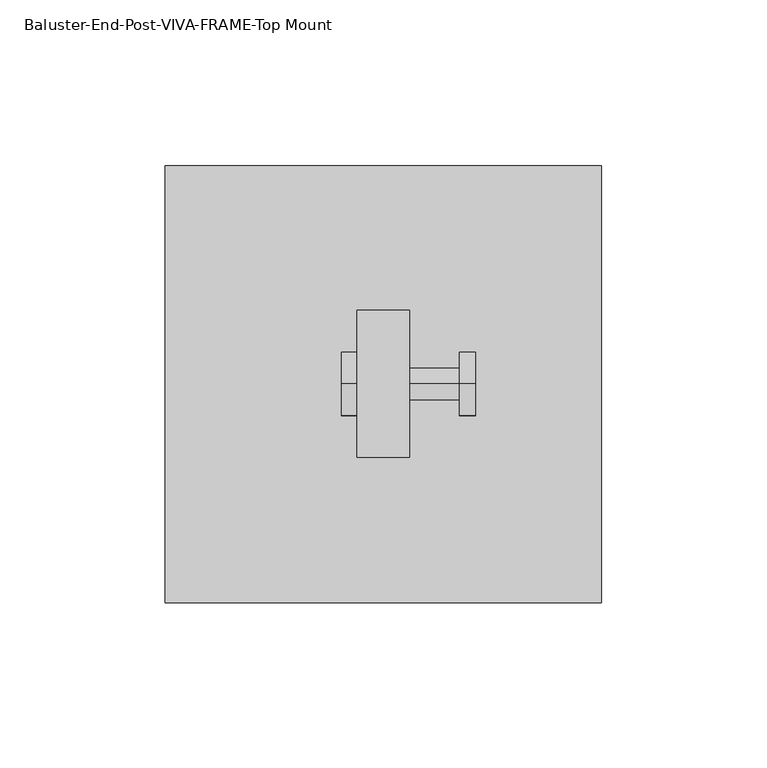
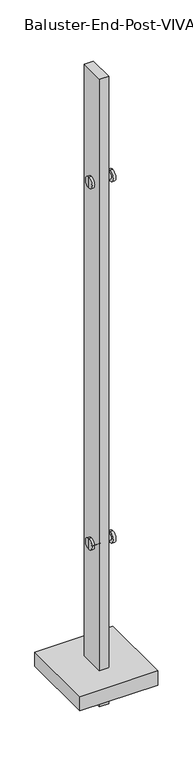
"""IFC4 building model written with IfcOpenShell, lengths in millimetres: proxy geometry, Baluster-End-Post-VIVA-FRAME-Top Mount : ANCHORED TO CONCRETE_TOP MOUNT FOLD_STRAIGHT."""

from ifc_helpers import new_model, si_unit, frame, origin, place, context, project, spatial, polyline, circle_curve, outline, extrude, source, transform, mapped, element, save
from ifc_brep_helpers import plane_surface, cylinder_surface, advanced_brep


def baluster_end_post_viva_frame_top_mount_259ace8d(model_context):
    return source(origin(), model_context, "Body", "SolidModel", [
        extrude(outline(polyline([(7.9375, -78.2802567), (7.9375, -122.7302567), (-7.9375, -122.7302567), (-7.9375, -78.2802567), (7.9375, -78.2802567)])), frame((0.0, 0.0, -39.2093072), z_axis=(0.0, 0.0, 1.0), x_axis=(1.0, 0.0, 0.0)), (0.0, 0.0, 1.0), 1125.3782846),
        advanced_brep(
        [(-12.7127, -100.5078, 231.7496), (-12.7127, -100.5078, 250.8504), (-12.7127, -100.5078, 241.3), (-7.9375, -100.5078, 231.7496), (-7.9375, -100.5078, 250.8504), (-7.9375, -100.5078, 236.5248), (-7.9375, -100.5078, 246.0752), (22.9997, -100.5078, 236.5248), (22.9997, -100.5078, 246.0752), (22.9997, -100.5078, 231.7496), (22.9997, -100.5078, 250.8504), (27.7749, -100.5078, 231.7496), (27.7749, -100.5078, 250.8504), (27.7749, -100.5078, 241.3)],
        [
            (0, 1, circle_curve(frame((-12.7127, -100.5078, 241.3), z_axis=(-1.0, 0.0, 0.0), x_axis=(0.0, 0.0, 1.0)), 9.5504)),
            (1, 2),
            (2, 0),
            (1, 0, circle_curve(frame((-12.7127, -100.5078, 241.3), z_axis=(-1.0, 0.0, 0.0), x_axis=(0.0, 0.0, 1.0)), 9.5504)),
            (3, 4, circle_curve(frame((-7.9375, -100.5078, 241.3), z_axis=(-1.0, 0.0, 0.0), x_axis=(0.0, 0.0, 1.0)), 9.5504)),
            (4, 1),
            (0, 3),
            (4, 3, circle_curve(frame((-7.9375, -100.5078, 241.3), z_axis=(-1.0, 0.0, 0.0), x_axis=(0.0, 0.0, 1.0)), 9.5504)),
            (5, 6, circle_curve(frame((-7.9375, -100.5078, 241.3), z_axis=(-1.0, 0.0, 0.0), x_axis=(0.0, 0.0, 1.0)), 4.7752)),
            (6, 4),
            (3, 5),
            (6, 5, circle_curve(frame((-7.9375, -100.5078, 241.3), z_axis=(-1.0, 0.0, 0.0), x_axis=(0.0, 0.0, 1.0)), 4.7752)),
            (7, 8, circle_curve(frame((22.9997, -100.5078, 241.3), z_axis=(-1.0, 0.0, 0.0), x_axis=(0.0, 0.0, 1.0)), 4.7752)),
            (8, 6),
            (5, 7),
            (8, 7, circle_curve(frame((22.9997, -100.5078, 241.3), z_axis=(-1.0, 0.0, 0.0), x_axis=(0.0, 0.0, 1.0)), 4.7752)),
            (9, 10, circle_curve(frame((22.9997, -100.5078, 241.3), z_axis=(-1.0, 0.0, 0.0), x_axis=(0.0, 0.0, 1.0)), 9.5504)),
            (10, 8),
            (7, 9),
            (10, 9, circle_curve(frame((22.9997, -100.5078, 241.3), z_axis=(-1.0, 0.0, 0.0), x_axis=(0.0, 0.0, 1.0)), 9.5504)),
            (11, 12, circle_curve(frame((27.7749, -100.5078, 241.3), z_axis=(-1.0, 0.0, 0.0), x_axis=(0.0, 0.0, 1.0)), 9.5504)),
            (12, 10),
            (9, 11),
            (12, 11, circle_curve(frame((27.7749, -100.5078, 241.3), z_axis=(-1.0, 0.0, 0.0), x_axis=(0.0, 0.0, 1.0)), 9.5504)),
            (13, 12),
            (11, 13),
        ],
        [
            plane_surface(frame((-12.7127, -100.5078, 241.3), z_axis=(-1.0, 0.0, 0.0), x_axis=(0.0, 0.0, 1.0))),
            cylinder_surface(frame((-3404.2930571, -100.5078, 241.3), z_axis=(1.0, 0.0, 0.0), x_axis=(0.0, 0.0, 1.0)), 9.5504),
            plane_surface(frame((-7.9375, -100.5078, 241.3), z_axis=(1.0, 0.0, 0.0), x_axis=(0.0, 0.0, 1.0))),
            cylinder_surface(frame((-3404.2930571, -100.5078, 241.3), z_axis=(1.0, 0.0, 0.0), x_axis=(0.0, 0.0, 1.0)), 4.7752),
            plane_surface(frame((22.9997, -100.5078, 241.3), z_axis=(-1.0, 0.0, 0.0), x_axis=(0.0, 0.0, 1.0))),
            plane_surface(frame((27.7749, -100.5078, 241.3), z_axis=(1.0, 0.0, 0.0), x_axis=(0.0, 0.0, 1.0))),
        ],
        [
            (0, [[1, 2, 3]]),
            (0, [[4, -3, -2]]),
            (1, [[5, 6, -1, 7]]),
            (1, [[8, -7, -4, -6]]),
            (2, [[9, 10, -5, 11]]),
            (2, [[12, -11, -8, -10]]),
            (3, [[13, 14, -9, 15]]),
            (3, [[16, -15, -12, -14]]),
            (4, [[17, 18, -13, 19]]),
            (4, [[20, -19, -16, -18]]),
            (1, [[21, 22, -17, 23]]),
            (1, [[24, -23, -20, -22]]),
            (5, [[25, -21, 26]]),
            (5, [[-26, -24, -25]]),
        ],
    ),
        advanced_brep(
        [(-12.7127, -100.5078, 879.4559555), (-12.7127, -100.5078, 898.5567555), (-12.7127, -100.5078, 889.0063555), (-7.9375, -100.5078, 879.4559555), (-7.9375, -100.5078, 898.5567555), (-7.9375, -100.5078, 884.2311555), (-7.9375, -100.5078, 893.7815555), (22.9997, -100.5078, 884.2311555), (22.9997, -100.5078, 893.7815555), (22.9997, -100.5078, 879.4559555), (22.9997, -100.5078, 898.5567555), (27.7749, -100.5078, 879.4559555), (27.7749, -100.5078, 898.5567555), (27.7749, -100.5078, 889.0063555)],
        [
            (0, 1, circle_curve(frame((-12.7127, -100.5078, 889.0063555), z_axis=(-1.0, 0.0, 0.0), x_axis=(0.0, 0.0, 1.0)), 9.5504)),
            (1, 2),
            (2, 0),
            (1, 0, circle_curve(frame((-12.7127, -100.5078, 889.0063555), z_axis=(-1.0, 0.0, 0.0), x_axis=(0.0, 0.0, 1.0)), 9.5504)),
            (3, 4, circle_curve(frame((-7.9375, -100.5078, 889.0063555), z_axis=(-1.0, 0.0, 0.0), x_axis=(0.0, 0.0, 1.0)), 9.5504)),
            (4, 1),
            (0, 3),
            (4, 3, circle_curve(frame((-7.9375, -100.5078, 889.0063555), z_axis=(-1.0, 0.0, 0.0), x_axis=(0.0, 0.0, 1.0)), 9.5504)),
            (5, 6, circle_curve(frame((-7.9375, -100.5078, 889.0063555), z_axis=(-1.0, 0.0, 0.0), x_axis=(0.0, 0.0, 1.0)), 4.7752)),
            (6, 4),
            (3, 5),
            (6, 5, circle_curve(frame((-7.9375, -100.5078, 889.0063555), z_axis=(-1.0, 0.0, 0.0), x_axis=(0.0, 0.0, 1.0)), 4.7752)),
            (7, 8, circle_curve(frame((22.9997, -100.5078, 889.0063555), z_axis=(-1.0, 0.0, 0.0), x_axis=(0.0, 0.0, 1.0)), 4.7752)),
            (8, 6),
            (5, 7),
            (8, 7, circle_curve(frame((22.9997, -100.5078, 889.0063555), z_axis=(-1.0, 0.0, 0.0), x_axis=(0.0, 0.0, 1.0)), 4.7752)),
            (9, 10, circle_curve(frame((22.9997, -100.5078, 889.0063555), z_axis=(-1.0, 0.0, 0.0), x_axis=(0.0, 0.0, 1.0)), 9.5504)),
            (10, 8),
            (7, 9),
            (10, 9, circle_curve(frame((22.9997, -100.5078, 889.0063555), z_axis=(-1.0, 0.0, 0.0), x_axis=(0.0, 0.0, 1.0)), 9.5504)),
            (11, 12, circle_curve(frame((27.7749, -100.5078, 889.0063555), z_axis=(-1.0, 0.0, 0.0), x_axis=(0.0, 0.0, 1.0)), 9.5504)),
            (12, 10),
            (9, 11),
            (12, 11, circle_curve(frame((27.7749, -100.5078, 889.0063555), z_axis=(-1.0, 0.0, 0.0), x_axis=(0.0, 0.0, 1.0)), 9.5504)),
            (13, 12),
            (11, 13),
        ],
        [
            plane_surface(frame((-12.7127, -100.5078, 889.0063555), z_axis=(-1.0, 0.0, 0.0), x_axis=(0.0, 0.0, 1.0))),
            cylinder_surface(frame((-3404.2930571, -100.5078, 889.0063555), z_axis=(1.0, 0.0, 0.0), x_axis=(0.0, 0.0, 1.0)), 9.5504),
            plane_surface(frame((-7.9375, -100.5078, 889.0063555), z_axis=(1.0, 0.0, 0.0), x_axis=(0.0, 0.0, 1.0))),
            cylinder_surface(frame((-3404.2930571, -100.5078, 889.0063555), z_axis=(1.0, 0.0, 0.0), x_axis=(0.0, 0.0, 1.0)), 4.7752),
            plane_surface(frame((22.9997, -100.5078, 889.0063555), z_axis=(-1.0, 0.0, 0.0), x_axis=(0.0, 0.0, 1.0))),
            plane_surface(frame((27.7749, -100.5078, 889.0063555), z_axis=(1.0, 0.0, 0.0), x_axis=(0.0, 0.0, 1.0))),
        ],
        [
            (0, [[1, 2, 3]]),
            (0, [[4, -3, -2]]),
            (1, [[5, 6, -1, 7]]),
            (1, [[8, -7, -4, -6]]),
            (2, [[9, 10, -5, 11]]),
            (2, [[12, -11, -8, -10]]),
            (3, [[13, 14, -9, 15]]),
            (3, [[16, -15, -12, -14]]),
            (4, [[17, 18, -13, 19]]),
            (4, [[20, -19, -16, -18]]),
            (1, [[21, 22, -17, 23]]),
            (1, [[24, -23, -20, -22]]),
            (5, [[25, -21, 26]]),
            (5, [[-26, -24, -25]]),
        ],
    ),
        extrude(outline(polyline([(-66.0, -34.5052567), (66.0, -34.5052567), (66.0, -166.5052567), (-66.0, -166.5052567), (-66.0, -34.5052567)])), frame((0.0, 0.0, 0.5143555), z_axis=(0.0, 0.0, 1.0), x_axis=(1.0, 0.0, 0.0)), (0.0, 0.0, 1.0), 25.4),
    ])


if __name__ == "__main__":
    model = new_model("IFC4")
    model_context = context("Model", 3, world=origin())
    ifc_project = project(units=[si_unit("LENGTHUNIT", "METRE", prefix="MILLI")], contexts=[model_context])
    site = spatial("IfcSite", under=ifc_project)
    building = spatial("IfcBuilding", under=site)
    placement = place(None, origin())
    baluster_end_post_viva_frame_top_mount_shape = baluster_end_post_viva_frame_top_mount_259ace8d(model_context)
    element("IfcBuildingElementProxy", 1, Name="Baluster-End-Post-VIVA-FRAME-Top Mount : ANCHORED TO CONCRETE_TOP MOUNT FOLD_STRAIGHT", ObjectType="Baluster-End-Post-VIVA-FRAME-Top Mount : ANCHORED TO CONCRETE_TOP MOUNT FOLD_STRAIGHT", at=placement, inside=building, context=model_context, shape_type="MappedRepresentation", body=[
        mapped(baluster_end_post_viva_frame_top_mount_shape, transform((0.0, 0.0, 0.0), x_axis=(1.0, 0.0, 0.0), y_axis=(0.0, 1.0, 0.0), z_axis=(0.0, 0.0, 1.0))),
    ])
    save(model, "model.ifc")
